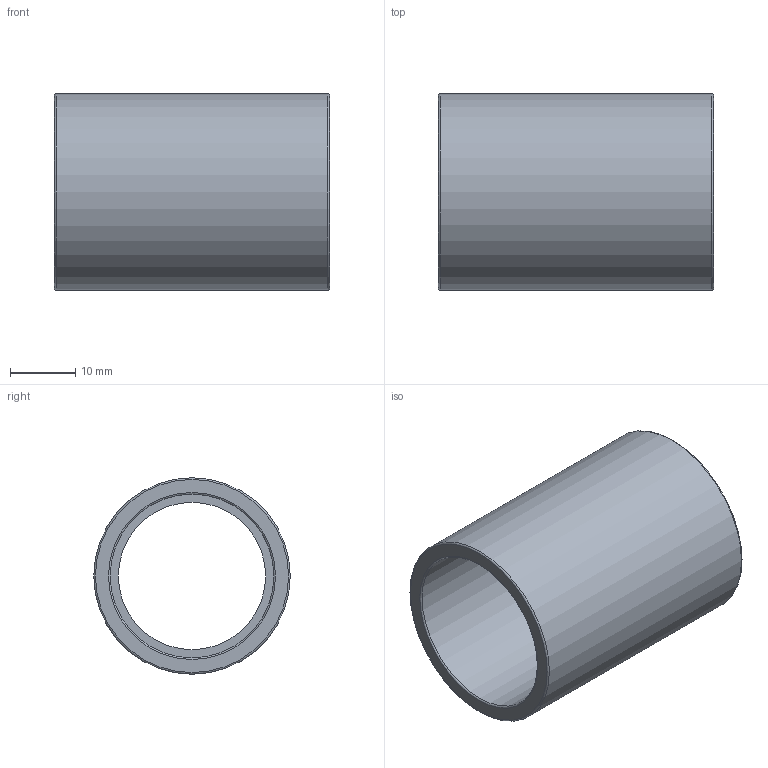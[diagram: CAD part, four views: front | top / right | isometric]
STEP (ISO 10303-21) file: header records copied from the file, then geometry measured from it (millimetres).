
FILE_DESCRIPTION(/* description */ ('PLASSON SOCKET PVC 25 - CEMENT'),/* implementation_level */ '2;1');
FILE_NAME(/* name */ 'C:\Dropbox\KIMPROJECTS-Inventor\99-16-3568-Processing\PVC Catalog 2017\050100\050100025.ipt.stp',/* time_stamp */ '2017-12-07T15:51:21+02:00',/* author */ ('KIM'),/* organization */ (''),/* preprocessor_version */ 'ST-DEVELOPER v15.6',/* originating_system */ 'Autodesk Inventor 2015',/* authorisation */ '');
FILE_SCHEMA (('AUTOMOTIVE_DESIGN { 1 0 10303 214 3 1 1 }'));
Length unit declared in the file: millimetre
Products named in the file (1): 050100025
Bounding box: 42 x 30 x 30 mm (x, y, z)
Volume: 9439.8 mm3; surface area: 7807.1 mm2
Topology: 1 solids, 1 shells, 12 faces, 20 edges, 12 vertices
Faces by surface type: torus 4, plane 4, cylinder 4
Full cylindrical faces by diameter (mm): 22.5 x1, 25 x2, 30 x1
Entity records: 272 total; most frequent: DIRECTION 50, CARTESIAN_POINT 37, AXIS2_PLACEMENT_3D 25, EDGE_LOOP 24, ORIENTED_EDGE 24, FACE_BOUND 12, FACE_OUTER_BOUND 12, CIRCLE 12
